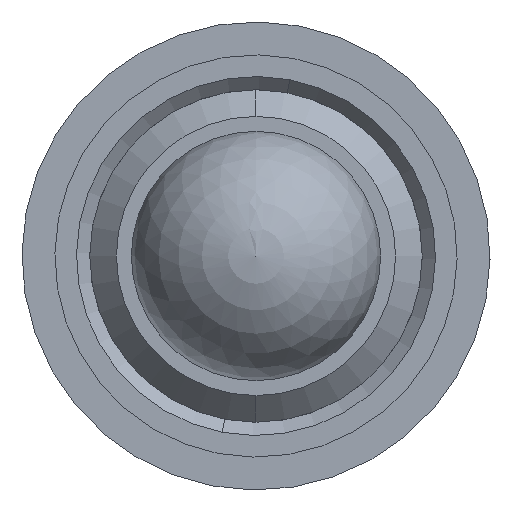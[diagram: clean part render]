
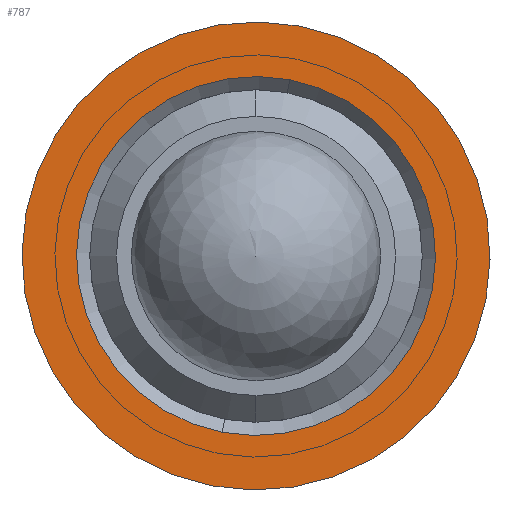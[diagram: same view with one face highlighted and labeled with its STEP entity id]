
A CAD part, left-side view. The second image highlights one B-rep face of the part: STEP entity #787.
In plain terms, the highlighted planar face has unit normal (-1, 0, 0).
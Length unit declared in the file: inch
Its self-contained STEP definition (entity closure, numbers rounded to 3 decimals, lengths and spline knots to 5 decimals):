
#49 = CIRCLE ( 'NONE', #927, 0.135 ) ;
#61 = AXIS2_PLACEMENT_3D ( 'NONE', #650, #827, #818 ) ;
#71 = CIRCLE ( 'NONE', #61, 0.135 ) ;
#84 = FACE_BOUND ( 'NONE', #552, .T. ) ;
#135 = CARTESIAN_POINT ( 'NONE',  ( 0.40782, 2.29189, 3.22301 ) ) ;
#175 = ORIENTED_EDGE ( 'NONE', *, *, #1400, .T. ) ;
#214 = ORIENTED_EDGE ( 'NONE', *, *, #1141, .T. ) ;
#263 = VERTEX_POINT ( 'NONE', #752 ) ;
#291 = DIRECTION ( 'NONE',  ( 0., 0.189, -0.982 ) ) ;
#365 = EDGE_LOOP ( 'NONE', ( #621, #175 ) ) ;
#537 = CIRCLE ( 'NONE', #1190, 0.176 ) ;
#545 = CARTESIAN_POINT ( 'NONE',  ( 0.40782, 2.23326, 3.52843 ) ) ;
#552 = EDGE_LOOP ( 'NONE', ( #1035, #214 ) ) ;
#560 = CIRCLE ( 'NONE', #1291, 0.176 ) ;
#621 = ORIENTED_EDGE ( 'NONE', *, *, #634, .T. ) ;
#634 = EDGE_CURVE ( 'NONE', #1325, #263, #537, .T. ) ;
#650 = CARTESIAN_POINT ( 'NONE',  ( 0.40782, 2.26644, 3.35558 ) ) ;
#687 = CARTESIAN_POINT ( 'NONE',  ( 0.40782, 2.24099, 3.48816 ) ) ;
#705 = CARTESIAN_POINT ( 'NONE',  ( 0.40782, 2.26644, 3.35558 ) ) ;
#752 = CARTESIAN_POINT ( 'NONE',  ( 0.40782, 2.29962, 3.18274 ) ) ;
#787 = ADVANCED_FACE ( 'NONE', ( #84, #1306 ), #1312, .F. ) ;
#807 = VERTEX_POINT ( 'NONE', #687 ) ;
#818 = DIRECTION ( 'NONE',  ( 0., 0.189, -0.982 ) ) ;
#827 = DIRECTION ( 'NONE',  ( 1., 0., 0. ) ) ;
#927 = AXIS2_PLACEMENT_3D ( 'NONE', #1019, #1124, #291 ) ;
#971 = VERTEX_POINT ( 'NONE', #135 ) ;
#1019 = CARTESIAN_POINT ( 'NONE',  ( 0.40782, 2.26644, 3.35558 ) ) ;
#1035 = ORIENTED_EDGE ( 'NONE', *, *, #1175, .T. ) ;
#1069 = DIRECTION ( 'NONE',  ( 0., -0.189, 0.982 ) ) ;
#1124 = DIRECTION ( 'NONE',  ( 1., 0., 0. ) ) ;
#1132 = DIRECTION ( 'NONE',  ( -1., 0., 0. ) ) ;
#1141 = EDGE_CURVE ( 'NONE', #971, #807, #71, .T. ) ;
#1175 = EDGE_CURVE ( 'NONE', #807, #971, #49, .T. ) ;
#1189 = DIRECTION ( 'NONE',  ( -1., 0., 0. ) ) ;
#1190 = AXIS2_PLACEMENT_3D ( 'NONE', #705, #1132, #1191 ) ;
#1191 = DIRECTION ( 'NONE',  ( 0., -0.189, 0.982 ) ) ;
#1291 = AXIS2_PLACEMENT_3D ( 'NONE', #1299, #1189, #1069 ) ;
#1299 = CARTESIAN_POINT ( 'NONE',  ( 0.40782, 2.26644, 3.35558 ) ) ;
#1302 = CARTESIAN_POINT ( 'NONE',  ( 0.40782, 2.26644, 3.35558 ) ) ;
#1306 = FACE_OUTER_BOUND ( 'NONE', #365, .T. ) ;
#1312 = PLANE ( 'NONE',  #1512 ) ;
#1325 = VERTEX_POINT ( 'NONE', #545 ) ;
#1340 = DIRECTION ( 'NONE',  ( 1., 0., 0. ) ) ;
#1400 = EDGE_CURVE ( 'NONE', #263, #1325, #560, .T. ) ;
#1426 = DIRECTION ( 'NONE',  ( 0., 0.189, -0.982 ) ) ;
#1512 = AXIS2_PLACEMENT_3D ( 'NONE', #1302, #1340, #1426 ) ;
